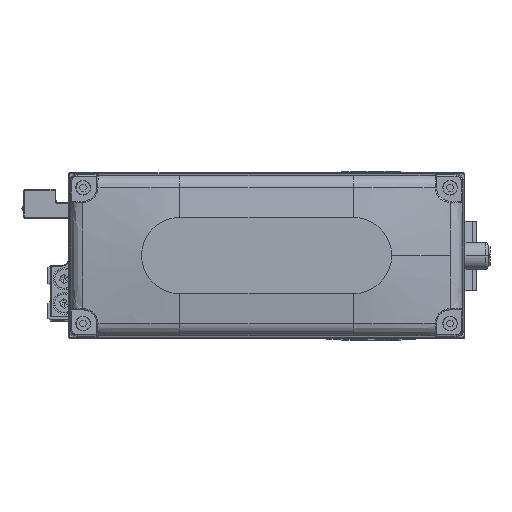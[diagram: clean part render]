
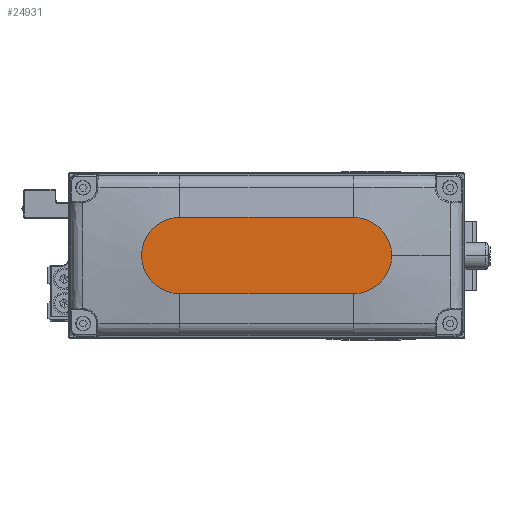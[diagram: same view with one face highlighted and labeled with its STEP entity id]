
A CAD part, top view. The second image highlights one B-rep face of the part: STEP entity #24931.
In plain terms, the highlighted planar face has unit normal (0, 0, 1).
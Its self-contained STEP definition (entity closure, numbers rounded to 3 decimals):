
#820 = AXIS2_PLACEMENT_3D ( 'NONE', #19939, #33564, #2960 ) ;
#1627 = VECTOR ( 'NONE', #24852, 1000. ) ;
#2200 = EDGE_CURVE ( 'NONE', #29383, #19731, #6500, .T. ) ;
#2217 = LINE ( 'NONE', #15852, #23931 ) ;
#2652 = FACE_OUTER_BOUND ( 'NONE', #41882, .T. ) ;
#2960 = DIRECTION ( 'NONE',  ( 1., 0., 0. ) ) ;
#4360 = EDGE_CURVE ( 'NONE', #36540, #27142, #20097, .T. ) ;
#6500 = CIRCLE ( 'NONE', #31463, 14. ) ;
#7320 = DIRECTION ( 'NONE',  ( 1., 0., 0. ) ) ;
#8719 = CIRCLE ( 'NONE', #14432, 14. ) ;
#9815 = DIRECTION ( 'NONE',  ( 0., 0., 1. ) ) ;
#11227 = CARTESIAN_POINT ( 'NONE',  ( -32., 14., 35. ) ) ;
#11837 = EDGE_CURVE ( 'NONE', #19731, #25217, #2217, .T. ) ;
#12925 = DIRECTION ( 'NONE',  ( 1., 0., 0. ) ) ;
#14205 = EDGE_CURVE ( 'NONE', #25217, #36540, #8719, .T. ) ;
#14432 = AXIS2_PLACEMENT_3D ( 'NONE', #40445, #9815, #23441 ) ;
#15852 = CARTESIAN_POINT ( 'NONE',  ( -32., -14., 35. ) ) ;
#16270 = PLANE ( 'NONE',  #35118 ) ;
#17333 = CARTESIAN_POINT ( 'NONE',  ( -32., -14., 35. ) ) ;
#17383 = ORIENTED_EDGE ( 'NONE', *, *, #14205, .T. ) ;
#17726 = CARTESIAN_POINT ( 'NONE',  ( 32., 14., 35. ) ) ;
#19731 = VERTEX_POINT ( 'NONE', #17333 ) ;
#19808 = CARTESIAN_POINT ( 'NONE',  ( -32., 14., 35. ) ) ;
#19939 = CARTESIAN_POINT ( 'NONE',  ( 32., 0., 35. ) ) ;
#20097 = CIRCLE ( 'NONE', #820, 14. ) ;
#23441 = DIRECTION ( 'NONE',  ( 1., 0., 0. ) ) ;
#23931 = VECTOR ( 'NONE', #29482, 1000. ) ;
#24290 = CARTESIAN_POINT ( 'NONE',  ( -32., 0., 35. ) ) ;
#24852 = DIRECTION ( 'NONE',  ( -1., 0., 0. ) ) ;
#24931 = ADVANCED_FACE ( 'NONE', ( #2652 ), #16270, .T. ) ;
#25217 = VERTEX_POINT ( 'NONE', #28762 ) ;
#27142 = VERTEX_POINT ( 'NONE', #17726 ) ;
#28762 = CARTESIAN_POINT ( 'NONE',  ( 32., -14., 35. ) ) ;
#29383 = VERTEX_POINT ( 'NONE', #19808 ) ;
#29482 = DIRECTION ( 'NONE',  ( 1., 0., 0. ) ) ;
#29900 = CARTESIAN_POINT ( 'NONE',  ( 0., 0., 35. ) ) ;
#30821 = ORIENTED_EDGE ( 'NONE', *, *, #40609, .T. ) ;
#31463 = AXIS2_PLACEMENT_3D ( 'NONE', #24290, #37939, #7320 ) ;
#31870 = ORIENTED_EDGE ( 'NONE', *, *, #11837, .T. ) ;
#32494 = CARTESIAN_POINT ( 'NONE',  ( 46., 0., 35. ) ) ;
#33564 = DIRECTION ( 'NONE',  ( 0., 0., 1. ) ) ;
#35118 = AXIS2_PLACEMENT_3D ( 'NONE', #29900, #43556, #12925 ) ;
#35128 = ORIENTED_EDGE ( 'NONE', *, *, #4360, .T. ) ;
#36540 = VERTEX_POINT ( 'NONE', #32494 ) ;
#37821 = ORIENTED_EDGE ( 'NONE', *, *, #2200, .T. ) ;
#37939 = DIRECTION ( 'NONE',  ( 0., 0., 1. ) ) ;
#40445 = CARTESIAN_POINT ( 'NONE',  ( 32., 0., 35. ) ) ;
#40609 = EDGE_CURVE ( 'NONE', #27142, #29383, #41866, .T. ) ;
#41866 = LINE ( 'NONE', #11227, #1627 ) ;
#41882 = EDGE_LOOP ( 'NONE', ( #30821, #37821, #31870, #17383, #35128 ) ) ;
#43556 = DIRECTION ( 'NONE',  ( 0., 0., 1. ) ) ;
